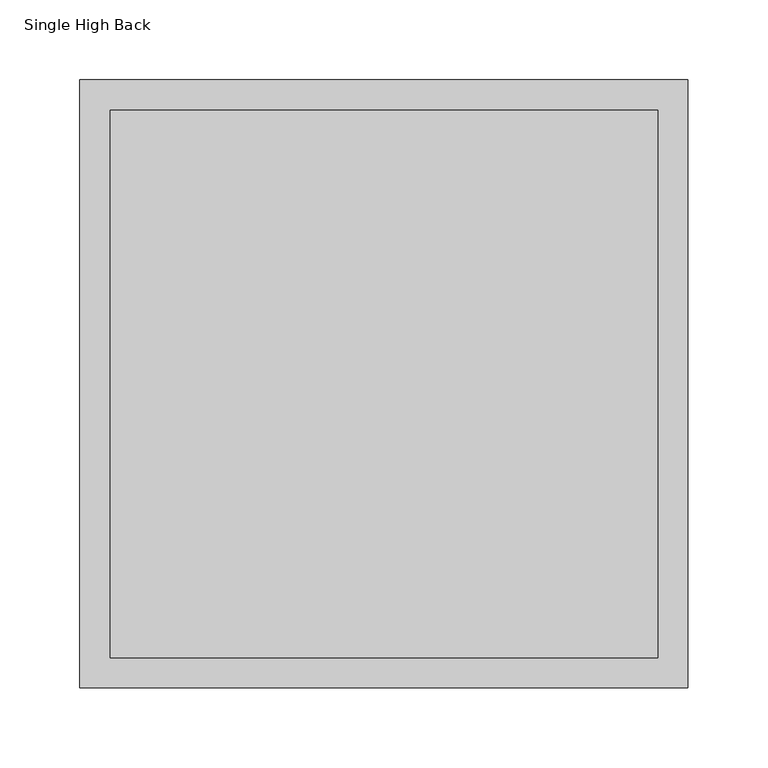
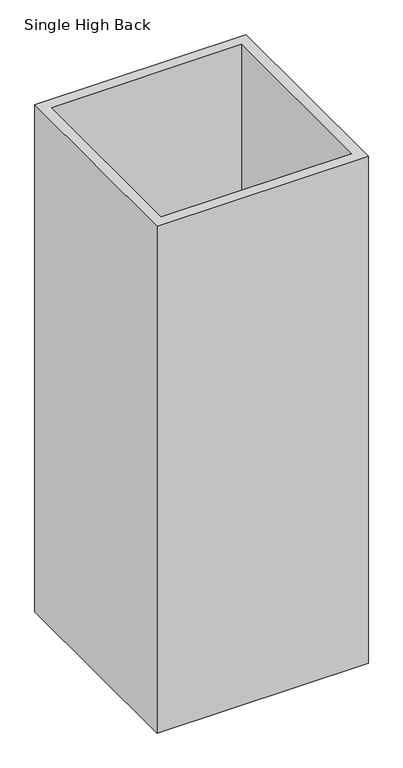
"""IFC4 building model written with IfcOpenShell, lengths in millimetres: furniture geometry, Profim - Lunea - Planter : Single High Back."""

from ifc_helpers import new_model, si_unit, origin, place, context, project, spatial, faceted_brep, source, transform, mapped, element, save


def single_high_back_76cfae69(model_context):
    return source(origin(), model_context, "Body", "Brep", [
        faceted_brep([(190.5, 190.5, 965.2), (-190.5, 190.5, 965.2), (-190.5, -190.5, 965.2), (190.5, -190.5, 965.2), (171.45, -171.45, 965.2), (-171.45, -171.45, 965.2), (-171.45, 171.45, 965.2), (171.45, 171.45, 965.2), (190.5, 190.5, 0.0), (190.5, -190.5, 0.0), (-190.5, -190.5, 0.0), (-190.5, 190.5, 0.0), (171.45, -171.45, 685.8), (171.45, 171.45, 685.8), (-171.45, 171.45, 685.8), (-171.45, -171.45, 685.8)], [[[0, 1, 2, 3], [4, 5, 6, 7]], [[8, 9, 10, 11]], [[1, 0, 8, 11]], [[2, 1, 11, 10]], [[3, 2, 10, 9]], [[0, 3, 9, 8]], [[12, 13, 14, 15]], [[12, 15, 5, 4]], [[13, 12, 4, 7]], [[14, 13, 7, 6]], [[15, 14, 6, 5]]]),
    ])


if __name__ == "__main__":
    model = new_model("IFC4")
    model_context = context("Model", 3, world=origin())
    ifc_project = project(units=[si_unit("LENGTHUNIT", "METRE", prefix="MILLI")], contexts=[model_context])
    site = spatial("IfcSite", under=ifc_project)
    building = spatial("IfcBuilding", under=site)
    placement = place(None, origin())
    single_high_back_shape = single_high_back_76cfae69(model_context)
    element("IfcFurniture", 1, ObjectType="Profim - Lunea - Planter : Single High Back", at=placement, inside=building, context=model_context, shape_type="MappedRepresentation", body=[
        mapped(single_high_back_shape, transform((0.0, 0.0, 0.0), x_axis=(1.0, 0.0, 0.0), y_axis=(0.0, 1.0, 0.0), z_axis=(0.0, 0.0, 1.0))),
    ])
    save(model, "model.ifc")
